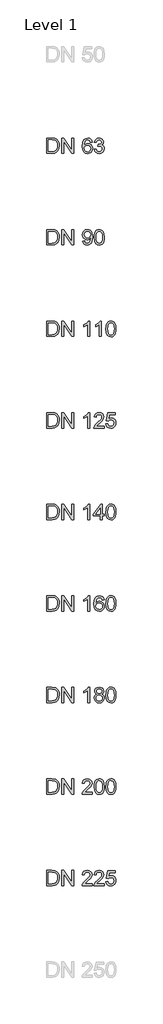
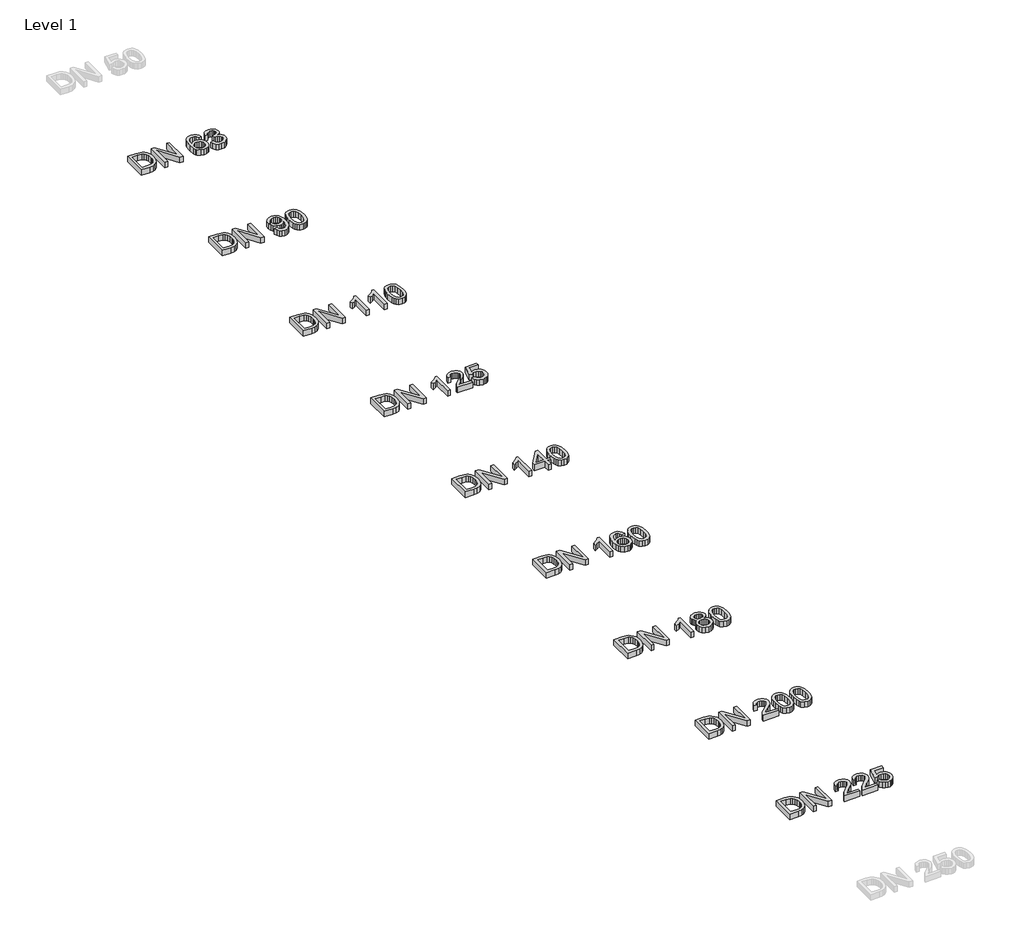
# One storey, part 23 of 26: 9 proxies.
"""IFC4 building model written with IfcOpenShell, lengths in millimetres."""

from ifc_helpers import new_model, si_unit, origin, origin_with_axes, place, context, project, spatial, polyline, outline, extrude, element, save

model = new_model("IFC4")

# Units and contexts
model_context = context("Model", 3, world=origin())
ifc_project = project(units=[si_unit("LENGTHUNIT", "METRE", prefix="MILLI")], contexts=[model_context])

# Site, building, storey
site = spatial("IfcSite", under=ifc_project)
building = spatial("IfcBuilding", under=site)
storey = spatial("IfcBuildingStorey", under=building, Name="Level 1", Elevation=0.0)

# Proxies
placement = place(None, origin())
element("IfcBuildingElementProxy", 1, Name="200mm Arial", ObjectType="200mm Arial", at=placement, inside=storey, context=model_context, shape_type="SweptSolid", body=[
    extrude(outline(polyline([(4539.3076926, -9113.949573), (4539.3076926, -8913.0369527), (4608.6166605, -8913.0369527), (4644.4728923, -8915.9309577), (4660.4880218, -8921.5105013), (4674.0015538, -8930.302881), (4687.8952305, -8945.606772), (4697.7912562, -8964.6385338), (4703.7141563, -8987.0302846), (4705.6884563, -9012.4141423), (4700.3419047, -9052.9547382), (4686.6076435, -9082.2136195), (4668.2625947, -9100.436041), (4644.2521631, -9110.5160077), (4611.9521239, -9113.949573), (4539.3076926, -9113.949573)]), holes=[polyline([(4564.4217702, -9088.8354954), (4608.8619152, -9088.8354954), (4641.1864798, -9085.2057264), (4659.8258342, -9074.9540815), (4668.5507689, -9064.0831685), (4675.1051998, -9050.0116822), (4679.207084, -9032.6783089), (4680.5743788, -9012.0217348), (4677.8949716, -8984.6513144), (4669.85675, -8964.4423301), (4657.9802929, -8950.5609162), (4643.7861793, -8942.1732067), (4608.1752021, -8938.1510302), (4564.4217702, -8938.1510302), (4564.4217702, -9088.8354954)])]), origin_with_axes(), (0.0, 0.0, 1.0), 50.0),
    extrude(outline(polyline([(4740.2203129, -9113.949573), (4740.2203129, -8913.0369527), (4767.100224, -8913.0369527), (4872.06922, -9072.2072292), (4872.06922, -8913.0369527), (4897.1832975, -8913.0369527), (4897.1832975, -9113.949573), (4870.3033864, -9113.949573), (4765.3343905, -8954.7302454), (4765.3343905, -9113.949573), (4740.2203129, -9113.949573)])), origin_with_axes(), (0.0, 0.0, 1.0), 50.0),
    extrude(outline(polyline([(5104.3744372, -9113.949573), (5079.2603597, -9113.949573), (5079.2603597, -8957.3789958), (5055.4706573, -8974.3260931), (5029.0322046, -8987.0057592), (5029.0322046, -8963.2651077), (5065.8449296, -8939.769711), (5079.315542, -8926.1948653), (5088.1876294, -8913.0369527), (5104.3744372, -8913.0369527), (5104.3744372, -9113.949573)])), origin_with_axes(), (0.0, 0.0, 1.0), 50.0),
    extrude(outline(polyline([(5292.7300188, -8966.4043674), (5267.6159412, -8969.5436271), (5258.1000603, -8948.5988789), (5246.7079812, -8940.7629924), (5232.9369318, -8938.1510302), (5210.2754009, -8944.2333458), (5200.8392277, -8953.8411973), (5193.1320999, -8967.066555), (5187.9265697, -8985.7733545), (5185.9951892, -9011.8255311), (5196.0690245, -9000.0717013), (5208.1416853, -8991.7882251), (5221.5387213, -8986.8770005), (5235.5856822, -8985.2399256), (5258.7867733, -8989.7158232), (5278.2599936, -9003.143516), (5291.4669572, -9023.6590686), (5295.8692784, -9049.3985455), (5293.7968765, -9067.3818437), (5287.5796708, -9084.0530295), (5277.7326961, -9098.1919608), (5264.7709871, -9108.5784958), (5249.2831551, -9114.9612484), (5231.8578113, -9117.0888326), (5203.3653508, -9111.4479754), (5180.673163, -9094.5254036), (5172.0141406, -9081.4165418), (5165.8291245, -9064.6533856), (5160.8811117, -9020.1641897), (5166.3748161, -8970.144501), (5173.2419467, -8951.0667539), (5182.8559295, -8935.9437382), (5193.276187, -8925.9220195), (5205.3580449, -8918.763649), (5234.5065616, -8913.0369527), (5256.5426932, -8916.5808825), (5274.1887662, -8927.2126722), (5286.5496012, -8944.0984558), (5292.7300188, -8966.4043674)]), holes=[polyline([(5185.9951892, -9049.0061381), (5191.8077247, -9070.7602267), (5207.2587685, -9086.554627), (5229.895774, -9091.9747551), (5246.4688579, -9089.1665892), (5259.4980119, -9080.7420915), (5267.9409036, -9067.4983397), (5270.7552009, -9050.2324114), (5267.9776918, -9033.6593275), (5259.6451647, -9021.022581), (5246.3952815, -9013.0211476), (5228.8657044, -9010.3540031), (5212.317146, -9013.0211476), (5198.4786516, -9021.022581), (5189.1160548, -9033.3527592), (5185.9951892, -9049.0061381)])]), origin_with_axes(), (0.0, 0.0, 1.0), 50.0),
    extrude(outline(polyline([(5317.8440963, -9015.1119436), (5319.6896376, -8982.9529258), (5325.2262617, -8957.3054194), (5334.3987861, -8937.7770168), (5347.1520286, -8923.9753106), (5363.5779597, -8915.7715422), (5383.7685498, -8913.0369527), (5399.2441191, -8914.6556334), (5413.1010076, -8919.5116758), (5424.6892904, -8927.4150073), (5433.3590428, -8938.1755557), (5445.1312666, -8967.9004209), (5449.6930034, -9015.1119436), (5447.8658561, -9047.0870203), (5442.3844144, -9072.6732131), (5433.2670723, -9092.2200098), (5420.5322239, -9106.0768983), (5404.0695046, -9114.335849), (5383.7685498, -9117.0888326), (5357.6734536, -9112.3063667), (5337.8568768, -9097.9589689), (5329.1012853, -9082.8298218), (5322.8472914, -9063.9789353), (5317.8440963, -9015.1119436)]), holes=[polyline([(5342.9581738, -9015.0628927), (5345.9012298, -9054.5672876), (5354.7303977, -9077.4311536), (5367.8760476, -9088.3388547), (5383.7685498, -9091.9747551), (5399.661052, -9088.326592), (5412.806702, -9077.3821026), (5421.6358699, -9054.5059739), (5424.5789258, -9015.0628927), (5421.7339717, -8976.4475459), (5413.1991094, -8953.4058703), (5400.0779849, -8941.9647402), (5383.4742442, -8938.1510302), (5367.7534203, -8941.5110191), (5355.1228051, -8951.5909857), (5345.9993317, -8976.0674012), (5342.9581738, -9015.0628927)])]), origin_with_axes(), (0.0, 0.0, 1.0), 50.0),
])
element("IfcBuildingElementProxy", 2, Name="200mm Arial", ObjectType="200mm Arial", at=placement, inside=storey, context=model_context, shape_type="SweptSolid", body=[
    extrude(outline(polyline([(4539.3076926, -11513.949573), (4539.3076926, -11313.0369527), (4608.6166605, -11313.0369527), (4644.4728923, -11315.9309577), (4660.4880218, -11321.5105013), (4674.0015538, -11330.302881), (4687.8952305, -11345.606772), (4697.7912562, -11364.6385338), (4703.7141563, -11387.0302846), (4705.6884563, -11412.4141423), (4700.3419047, -11452.9547382), (4686.6076435, -11482.2136195), (4668.2625947, -11500.436041), (4644.2521631, -11510.5160077), (4611.9521239, -11513.949573), (4539.3076926, -11513.949573)]), holes=[polyline([(4564.4217702, -11488.8354954), (4608.8619152, -11488.8354954), (4641.1864798, -11485.2057264), (4659.8258342, -11474.9540815), (4668.5507689, -11464.0831685), (4675.1051998, -11450.0116822), (4679.207084, -11432.6783089), (4680.5743788, -11412.0217348), (4677.8949716, -11384.6513144), (4669.85675, -11364.4423301), (4657.9802929, -11350.5609162), (4643.7861793, -11342.1732067), (4608.1752021, -11338.1510302), (4564.4217702, -11338.1510302), (4564.4217702, -11488.8354954)])]), origin_with_axes(), (0.0, 0.0, 1.0), 50.0),
    extrude(outline(polyline([(4740.2203129, -11513.949573), (4740.2203129, -11313.0369527), (4767.100224, -11313.0369527), (4872.06922, -11472.2072292), (4872.06922, -11313.0369527), (4897.1832975, -11313.0369527), (4897.1832975, -11513.949573), (4870.3033864, -11513.949573), (4765.3343905, -11354.7302454), (4765.3343905, -11513.949573), (4740.2203129, -11513.949573)])), origin_with_axes(), (0.0, 0.0, 1.0), 50.0),
    extrude(outline(polyline([(5138.9062938, -11488.8354954), (5138.9062938, -11513.949573), (5007.0573868, -11513.949573), (5009.7551881, -11496.6345937), (5025.0100281, -11469.9754118), (5056.451676, -11440.8636832), (5099.8127005, -11399.0232377), (5107.9428926, -11384.6022634), (5110.6529566, -11370.5736967), (5108.0961767, -11357.9982638), (5100.4258371, -11347.5442838), (5088.6352192, -11340.4993436), (5073.7176043, -11338.1510302), (5058.0519627, -11340.4441613), (5045.8812, -11347.3235546), (5038.0269194, -11358.2496499), (5035.310724, -11372.6828868), (5010.1966465, -11369.5436271), (5016.2850935, -11345.2511527), (5029.4491375, -11327.5069778), (5049.0020656, -11316.6544589), (5074.2571645, -11313.0369527), (5099.6962045, -11317.0591291), (5119.2123444, -11329.1256586), (5131.6283617, -11347.1518763), (5135.7670341, -11369.0531178), (5131.3033993, -11392.8673456), (5116.4654921, -11417.4909138), (5080.486633, -11451.9001431), (5051.5956336, -11476.0577275), (5040.2648682, -11488.8354954), (5138.9062938, -11488.8354954)])), origin_with_axes(), (0.0, 0.0, 1.0), 50.0),
    extrude(outline(polyline([(5164.0203714, -11415.1119436), (5165.8659127, -11382.9529258), (5171.4025367, -11357.3054194), (5180.5750612, -11337.7770168), (5193.3283037, -11323.9753106), (5209.7542347, -11315.7715422), (5229.9448249, -11313.0369527), (5245.4203942, -11314.6556334), (5259.2772827, -11319.5116758), (5270.8655655, -11327.4150073), (5279.5353179, -11338.1755557), (5291.3075417, -11367.9004209), (5295.8692784, -11415.1119436), (5294.0421312, -11447.0870203), (5288.5606895, -11472.6732131), (5279.4433474, -11492.2200098), (5266.708499, -11506.0768983), (5250.2457797, -11514.335849), (5229.9448249, -11517.0888326), (5203.8497287, -11512.3063667), (5184.0331519, -11497.9589689), (5175.2775604, -11482.8298218), (5169.0235665, -11463.9789353), (5164.0203714, -11415.1119436)]), holes=[polyline([(5189.1344489, -11415.0628927), (5192.0775049, -11454.5672876), (5200.9066728, -11477.4311536), (5214.0523227, -11488.3388547), (5229.9448249, -11491.9747551), (5245.8373271, -11488.326592), (5258.9829771, -11477.3821026), (5267.8121449, -11454.5059739), (5270.7552009, -11415.0628927), (5267.9102468, -11376.4475459), (5259.3753845, -11353.4058703), (5246.25426, -11341.9647402), (5229.6505193, -11338.1510302), (5213.9296954, -11341.5110191), (5201.2990802, -11351.5909857), (5192.1756067, -11376.0674012), (5189.1344489, -11415.0628927)])]), origin_with_axes(), (0.0, 0.0, 1.0), 50.0),
    extrude(outline(polyline([(5317.8440963, -11415.1119436), (5319.6896376, -11382.9529258), (5325.2262617, -11357.3054194), (5334.3987861, -11337.7770168), (5347.1520286, -11323.9753106), (5363.5779597, -11315.7715422), (5383.7685498, -11313.0369527), (5399.2441191, -11314.6556334), (5413.1010076, -11319.5116758), (5424.6892904, -11327.4150073), (5433.3590428, -11338.1755557), (5445.1312666, -11367.9004209), (5449.6930034, -11415.1119436), (5447.8658561, -11447.0870203), (5442.3844144, -11472.6732131), (5433.2670723, -11492.2200098), (5420.5322239, -11506.0768983), (5404.0695046, -11514.335849), (5383.7685498, -11517.0888326), (5357.6734536, -11512.3063667), (5337.8568768, -11497.9589689), (5329.1012853, -11482.8298218), (5322.8472914, -11463.9789353), (5317.8440963, -11415.1119436)]), holes=[polyline([(5342.9581738, -11415.0628927), (5345.9012298, -11454.5672876), (5354.7303977, -11477.4311536), (5367.8760476, -11488.3388547), (5383.7685498, -11491.9747551), (5399.661052, -11488.326592), (5412.806702, -11477.3821026), (5421.6358699, -11454.5059739), (5424.5789258, -11415.0628927), (5421.7339717, -11376.4475459), (5413.1991094, -11353.4058703), (5400.0779849, -11341.9647402), (5383.4742442, -11338.1510302), (5367.7534203, -11341.5110191), (5355.1228051, -11351.5909857), (5345.9993317, -11376.0674012), (5342.9581738, -11415.0628927)])]), origin_with_axes(), (0.0, 0.0, 1.0), 50.0),
])
element("IfcBuildingElementProxy", 3, Name="200mm Arial", ObjectType="200mm Arial", at=placement, inside=storey, context=model_context, shape_type="SweptSolid", body=[
    extrude(outline(polyline([(4539.3076926, -3113.949573), (4539.3076926, -2913.0369527), (4608.6166605, -2913.0369527), (4644.4728923, -2915.9309577), (4660.4880218, -2921.5105013), (4674.0015538, -2930.302881), (4687.8952305, -2945.606772), (4697.7912562, -2964.6385338), (4703.7141563, -2987.0302846), (4705.6884563, -3012.4141423), (4700.3419047, -3052.9547382), (4686.6076435, -3082.2136195), (4668.2625947, -3100.436041), (4644.2521631, -3110.5160077), (4611.9521239, -3113.949573), (4539.3076926, -3113.949573)]), holes=[polyline([(4564.4217702, -3088.8354954), (4608.8619152, -3088.8354954), (4641.1864798, -3085.2057264), (4659.8258342, -3074.9540815), (4668.5507689, -3064.0831685), (4675.1051998, -3050.0116822), (4679.207084, -3032.6783089), (4680.5743788, -3012.0217348), (4677.8949716, -2984.6513144), (4669.85675, -2964.4423301), (4657.9802929, -2950.5609162), (4643.7861793, -2942.1732067), (4608.1752021, -2938.1510302), (4564.4217702, -2938.1510302), (4564.4217702, -3088.8354954)])]), origin_with_axes(), (0.0, 0.0, 1.0), 50.0),
    extrude(outline(polyline([(4740.2203129, -3113.949573), (4740.2203129, -2913.0369527), (4767.100224, -2913.0369527), (4872.06922, -3072.2072292), (4872.06922, -2913.0369527), (4897.1832975, -2913.0369527), (4897.1832975, -3113.949573), (4870.3033864, -3113.949573), (4765.3343905, -2954.7302454), (4765.3343905, -3113.949573), (4740.2203129, -3113.949573)])), origin_with_axes(), (0.0, 0.0, 1.0), 50.0),
    extrude(outline(polyline([(5138.9062938, -2966.4043674), (5113.7922163, -2969.5436271), (5104.2763354, -2948.5988789), (5092.8842562, -2940.7629924), (5079.1132069, -2938.1510302), (5056.451676, -2944.2333458), (5047.0155028, -2953.8411973), (5039.308375, -2967.066555), (5034.1028448, -2985.7733545), (5032.1714643, -3011.8255311), (5042.2452996, -3000.0717013), (5054.3179604, -2991.7882251), (5067.7149964, -2986.8770005), (5081.7619573, -2985.2399256), (5104.9630484, -2989.7158232), (5124.4362687, -3003.143516), (5137.6432323, -3023.6590686), (5142.0455535, -3049.3985455), (5139.9731516, -3067.3818437), (5133.7559459, -3084.0530295), (5123.9089712, -3098.1919608), (5110.9472622, -3108.5784958), (5095.4594302, -3114.9612484), (5078.0340864, -3117.0888326), (5049.5416258, -3111.4479754), (5026.8494381, -3094.5254036), (5018.1904156, -3081.4165418), (5012.0053996, -3064.6533856), (5007.0573868, -3020.1641897), (5012.5510912, -2970.144501), (5019.4182218, -2951.0667539), (5029.0322046, -2935.9437382), (5039.4524621, -2925.9220195), (5051.53432, -2918.763649), (5080.6828367, -2913.0369527), (5102.7189682, -2916.5808825), (5120.3650413, -2927.2126722), (5132.7258763, -2944.0984558), (5138.9062938, -2966.4043674)]), holes=[polyline([(5032.1714643, -3049.0061381), (5037.9839998, -3070.7602267), (5053.4350436, -3086.554627), (5076.0720491, -3091.9747551), (5092.6451329, -3089.1665892), (5105.6742869, -3080.7420915), (5114.1171787, -3067.4983397), (5116.931476, -3050.2324114), (5114.1539669, -3033.6593275), (5105.8214397, -3021.022581), (5092.5715565, -3013.0211476), (5075.0419795, -3010.3540031), (5058.4934211, -3013.0211476), (5044.6549267, -3021.022581), (5035.2923299, -3033.3527592), (5032.1714643, -3049.0061381)])]), origin_with_axes(), (0.0, 0.0, 1.0), 50.0),
    extrude(outline(polyline([(5164.0203714, -3060.5821582), (5189.1344489, -3057.4428985), (5194.7569121, -3073.2250361), (5202.9913374, -3083.8813512), (5214.2423951, -3089.9514041), (5228.9147553, -3091.9747551), (5246.1316327, -3089.1911147), (5259.4244355, -3080.8401934), (5267.9225095, -3068.3812565), (5270.7552009, -3053.2735692), (5267.947035, -3038.9323028), (5259.5225373, -3027.3011004), (5246.7692948, -3019.5939726), (5230.9748945, -3017.02493), (5213.3656097, -3019.7717822), (5216.1615128, -2994.6577047), (5220.1836893, -2994.9520102), (5235.2300629, -2993.1493885), (5248.6822812, -2987.7415231), (5258.1736367, -2978.5935242), (5261.3374218, -2965.5705016), (5259.0442907, -2954.7241141), (5252.1648974, -2945.925603), (5241.6679978, -2940.0946734), (5228.5223479, -2938.1510302), (5215.3521724, -2940.1130675), (5204.5854927, -2945.9991794), (5196.7250807, -2955.809366), (5192.2737086, -2969.5436271), (5167.1596311, -2966.4043674), (5174.5540592, -2943.8532011), (5187.7119719, -2927.0164685), (5205.7136642, -2916.5318316), (5227.6394311, -2913.0369527), (5243.4277, -2914.7598667), (5257.928382, -2919.9286087), (5270.154327, -2928.0833263), (5279.1183849, -2938.7641669), (5284.6182208, -2951.0698196), (5286.4514994, -2964.0989736), (5284.7101913, -2976.2390794), (5279.4862669, -2987.2510138), (5270.8533028, -2996.6320047), (5258.8848752, -3003.87928), (5274.6056991, -3010.2313758), (5286.2552956, -3021.0471064), (5293.4657827, -3035.7378608), (5295.8692784, -3053.7150276), (5291.062287, -3078.191443), (5276.6413128, -3098.645682), (5254.8749614, -3112.478045), (5228.0318385, -3117.0888326), (5203.7516269, -3113.1524953), (5183.984101, -3101.3434833), (5170.2375771, -3083.2804773), (5164.0203714, -3060.5821582)])), origin_with_axes(), (0.0, 0.0, 1.0), 50.0),
])
element("IfcBuildingElementProxy", 4, Name="200mm Arial", ObjectType="200mm Arial", at=placement, inside=storey, context=model_context, shape_type="SweptSolid", body=[
    extrude(outline(polyline([(4539.3076926, -4313.949573), (4539.3076926, -4113.0369527), (4608.6166605, -4113.0369527), (4644.4728923, -4115.9309577), (4660.4880218, -4121.5105013), (4674.0015538, -4130.302881), (4687.8952305, -4145.606772), (4697.7912562, -4164.6385338), (4703.7141563, -4187.0302846), (4705.6884563, -4212.4141423), (4700.3419047, -4252.9547382), (4686.6076435, -4282.2136195), (4668.2625947, -4300.436041), (4644.2521631, -4310.5160077), (4611.9521239, -4313.949573), (4539.3076926, -4313.949573)]), holes=[polyline([(4564.4217702, -4288.8354954), (4608.8619152, -4288.8354954), (4641.1864798, -4285.2057264), (4659.8258342, -4274.9540815), (4668.5507689, -4264.0831685), (4675.1051998, -4250.0116822), (4679.207084, -4232.6783089), (4680.5743788, -4212.0217348), (4677.8949716, -4184.6513144), (4669.85675, -4164.4423301), (4657.9802929, -4150.5609162), (4643.7861793, -4142.1732067), (4608.1752021, -4138.1510302), (4564.4217702, -4138.1510302), (4564.4217702, -4288.8354954)])]), origin_with_axes(), (0.0, 0.0, 1.0), 50.0),
    extrude(outline(polyline([(4740.2203129, -4313.949573), (4740.2203129, -4113.0369527), (4767.100224, -4113.0369527), (4872.06922, -4272.2072292), (4872.06922, -4113.0369527), (4897.1832975, -4113.0369527), (4897.1832975, -4313.949573), (4870.3033864, -4313.949573), (4765.3343905, -4154.7302454), (4765.3343905, -4313.949573), (4740.2203129, -4313.949573)])), origin_with_axes(), (0.0, 0.0, 1.0), 50.0),
    extrude(outline(polyline([(5013.3359061, -4263.7214179), (5038.4499837, -4260.5821582), (5042.7419403, -4274.8375855), (5049.7316982, -4284.5435388), (5059.2475791, -4290.116951), (5071.1179049, -4291.9747551), (5091.4495165, -4287.1922892), (5105.2328285, -4274.4145212), (5113.4488598, -4252.5868562), (5117.0786288, -4223.4506021), (5116.931476, -4218.5455089), (5108.2310668, -4229.1650358), (5096.8451191, -4237.5772708), (5083.5952359, -4243.0587125), (5069.3030203, -4244.8858597), (5046.4023661, -4240.4222249), (5027.3399474, -4227.0313202), (5014.4824717, -4206.3440894), (5010.1966465, -4179.9914758), (5014.6909382, -4152.7682081), (5028.1738133, -4131.4310524), (5048.4257171, -4117.6354776), (5073.227095, -4113.0369527), (5091.9584199, -4115.6611776), (5109.0097504, -4123.5338523), (5123.271309, -4136.2625693), (5133.6333186, -4153.4549212), (5139.9424948, -4177.2200981), (5142.0455535, -4209.6672901), (5139.9486262, -4244.070388), (5133.657844, -4270.6621249), (5123.2283895, -4290.6442486), (5108.7154448, -4305.2185069), (5090.7444093, -4314.1212512), (5069.9406825, -4317.0888326), (5048.4686367, -4313.5878223), (5031.3375984, -4303.0847914), (5019.3569081, -4286.2419274), (5013.3359061, -4263.7214179)]), holes=[polyline([(5116.931476, -4179.4028646), (5114.221412, -4162.3821909), (5106.0912199, -4149.2855919), (5093.4728674, -4140.9346706), (5077.2983224, -4138.1510302), (5060.5229034, -4141.1492685), (5047.0829478, -4150.1439832), (5038.25378, -4163.9089012), (5035.310724, -4181.2177491), (5038.0943644, -4196.7362379), (5046.4452857, -4209.0541534), (5059.5541475, -4217.092375), (5076.6116093, -4219.7717822), (5092.6573957, -4217.092375), (5105.5761851, -4209.0541534), (5114.0926533, -4196.2825168), (5116.931476, -4179.4028646)])]), origin_with_axes(), (0.0, 0.0, 1.0), 50.0),
    extrude(outline(polyline([(5164.0203714, -4215.1119436), (5165.8659127, -4182.9529258), (5171.4025367, -4157.3054194), (5180.5750612, -4137.7770168), (5193.3283037, -4123.9753106), (5209.7542347, -4115.7715422), (5229.9448249, -4113.0369527), (5245.4203942, -4114.6556334), (5259.2772827, -4119.5116758), (5270.8655655, -4127.4150073), (5279.5353179, -4138.1755557), (5291.3075417, -4167.9004209), (5295.8692784, -4215.1119436), (5294.0421312, -4247.0870203), (5288.5606895, -4272.6732131), (5279.4433474, -4292.2200098), (5266.708499, -4306.0768983), (5250.2457797, -4314.335849), (5229.9448249, -4317.0888326), (5203.8497287, -4312.3063667), (5184.0331519, -4297.9589689), (5175.2775604, -4282.8298218), (5169.0235665, -4263.9789353), (5164.0203714, -4215.1119436)]), holes=[polyline([(5189.1344489, -4215.0628927), (5192.0775049, -4254.5672876), (5200.9066728, -4277.4311536), (5214.0523227, -4288.3388547), (5229.9448249, -4291.9747551), (5245.8373271, -4288.326592), (5258.9829771, -4277.3821026), (5267.8121449, -4254.5059739), (5270.7552009, -4215.0628927), (5267.9102468, -4176.4475459), (5259.3753845, -4153.4058703), (5246.25426, -4141.9647402), (5229.6505193, -4138.1510302), (5213.9296954, -4141.5110191), (5201.2990802, -4151.5909857), (5192.1756067, -4176.0674012), (5189.1344489, -4215.0628927)])]), origin_with_axes(), (0.0, 0.0, 1.0), 50.0),
])
element("IfcBuildingElementProxy", 5, Name="200mm Arial", ObjectType="200mm Arial", at=placement, inside=storey, context=model_context, shape_type="SweptSolid", body=[
    extrude(outline(polyline([(4539.3076926, -5513.949573), (4539.3076926, -5313.0369527), (4608.6166605, -5313.0369527), (4644.4728923, -5315.9309577), (4660.4880218, -5321.5105013), (4674.0015538, -5330.302881), (4687.8952305, -5345.606772), (4697.7912562, -5364.6385338), (4703.7141563, -5387.0302846), (4705.6884563, -5412.4141423), (4700.3419047, -5452.9547382), (4686.6076435, -5482.2136195), (4668.2625947, -5500.436041), (4644.2521631, -5510.5160077), (4611.9521239, -5513.949573), (4539.3076926, -5513.949573)]), holes=[polyline([(4564.4217702, -5488.8354954), (4608.8619152, -5488.8354954), (4641.1864798, -5485.2057264), (4659.8258342, -5474.9540815), (4668.5507689, -5464.0831685), (4675.1051998, -5450.0116822), (4679.207084, -5432.6783089), (4680.5743788, -5412.0217348), (4677.8949716, -5384.6513144), (4669.85675, -5364.4423301), (4657.9802929, -5350.5609162), (4643.7861793, -5342.1732067), (4608.1752021, -5338.1510302), (4564.4217702, -5338.1510302), (4564.4217702, -5488.8354954)])]), origin_with_axes(), (0.0, 0.0, 1.0), 50.0),
    extrude(outline(polyline([(4740.2203129, -5513.949573), (4740.2203129, -5313.0369527), (4767.100224, -5313.0369527), (4872.06922, -5472.2072292), (4872.06922, -5313.0369527), (4897.1832975, -5313.0369527), (4897.1832975, -5513.949573), (4870.3033864, -5513.949573), (4765.3343905, -5354.7302454), (4765.3343905, -5513.949573), (4740.2203129, -5513.949573)])), origin_with_axes(), (0.0, 0.0, 1.0), 50.0),
    extrude(outline(polyline([(5104.3744372, -5513.949573), (5079.2603597, -5513.949573), (5079.2603597, -5357.3789958), (5055.4706573, -5374.3260931), (5029.0322046, -5387.0057592), (5029.0322046, -5363.2651077), (5065.8449296, -5339.769711), (5079.315542, -5326.1948653), (5088.1876294, -5313.0369527), (5104.3744372, -5313.0369527), (5104.3744372, -5513.949573)])), origin_with_axes(), (0.0, 0.0, 1.0), 50.0),
    extrude(outline(polyline([(5258.1981621, -5513.949573), (5233.0840846, -5513.949573), (5233.0840846, -5357.3789958), (5209.2943822, -5374.3260931), (5182.8559295, -5387.0057592), (5182.8559295, -5363.2651077), (5219.6686545, -5339.769711), (5233.1392669, -5326.1948653), (5242.0113543, -5313.0369527), (5258.1981621, -5313.0369527), (5258.1981621, -5513.949573)])), origin_with_axes(), (0.0, 0.0, 1.0), 50.0),
    extrude(outline(polyline([(5317.8440963, -5415.1119436), (5319.6896376, -5382.9529258), (5325.2262617, -5357.3054194), (5334.3987861, -5337.7770168), (5347.1520286, -5323.9753106), (5363.5779597, -5315.7715422), (5383.7685498, -5313.0369527), (5399.2441191, -5314.6556334), (5413.1010076, -5319.5116758), (5424.6892904, -5327.4150073), (5433.3590428, -5338.1755557), (5445.1312666, -5367.9004209), (5449.6930034, -5415.1119436), (5447.8658561, -5447.0870203), (5442.3844144, -5472.6732131), (5433.2670723, -5492.2200098), (5420.5322239, -5506.0768983), (5404.0695046, -5514.335849), (5383.7685498, -5517.0888326), (5357.6734536, -5512.3063667), (5337.8568768, -5497.9589689), (5329.1012853, -5482.8298218), (5322.8472914, -5463.9789353), (5317.8440963, -5415.1119436)]), holes=[polyline([(5342.9581738, -5415.0628927), (5345.9012298, -5454.5672876), (5354.7303977, -5477.4311536), (5367.8760476, -5488.3388547), (5383.7685498, -5491.9747551), (5399.661052, -5488.326592), (5412.806702, -5477.3821026), (5421.6358699, -5454.5059739), (5424.5789258, -5415.0628927), (5421.7339717, -5376.4475459), (5413.1991094, -5353.4058703), (5400.0779849, -5341.9647402), (5383.4742442, -5338.1510302), (5367.7534203, -5341.5110191), (5355.1228051, -5351.5909857), (5345.9993317, -5376.0674012), (5342.9581738, -5415.0628927)])]), origin_with_axes(), (0.0, 0.0, 1.0), 50.0),
])
element("IfcBuildingElementProxy", 6, Name="200mm Arial", ObjectType="200mm Arial", at=placement, inside=storey, context=model_context, shape_type="SweptSolid", body=[
    extrude(outline(polyline([(4539.3076926, -6713.949573), (4539.3076926, -6513.0369527), (4608.6166605, -6513.0369527), (4644.4728923, -6515.9309577), (4660.4880218, -6521.5105013), (4674.0015538, -6530.302881), (4687.8952305, -6545.606772), (4697.7912562, -6564.6385338), (4703.7141563, -6587.0302846), (4705.6884563, -6612.4141423), (4700.3419047, -6652.9547382), (4686.6076435, -6682.2136195), (4668.2625947, -6700.436041), (4644.2521631, -6710.5160077), (4611.9521239, -6713.949573), (4539.3076926, -6713.949573)]), holes=[polyline([(4564.4217702, -6688.8354954), (4608.8619152, -6688.8354954), (4641.1864798, -6685.2057264), (4659.8258342, -6674.9540815), (4668.5507689, -6664.0831685), (4675.1051998, -6650.0116822), (4679.207084, -6632.6783089), (4680.5743788, -6612.0217348), (4677.8949716, -6584.6513144), (4669.85675, -6564.4423301), (4657.9802929, -6550.5609162), (4643.7861793, -6542.1732067), (4608.1752021, -6538.1510302), (4564.4217702, -6538.1510302), (4564.4217702, -6688.8354954)])]), origin_with_axes(), (0.0, 0.0, 1.0), 50.0),
    extrude(outline(polyline([(4740.2203129, -6713.949573), (4740.2203129, -6513.0369527), (4767.100224, -6513.0369527), (4872.06922, -6672.2072292), (4872.06922, -6513.0369527), (4897.1832975, -6513.0369527), (4897.1832975, -6713.949573), (4870.3033864, -6713.949573), (4765.3343905, -6554.7302454), (4765.3343905, -6713.949573), (4740.2203129, -6713.949573)])), origin_with_axes(), (0.0, 0.0, 1.0), 50.0),
    extrude(outline(polyline([(5104.3744372, -6713.949573), (5079.2603597, -6713.949573), (5079.2603597, -6557.3789958), (5055.4706573, -6574.3260931), (5029.0322046, -6587.0057592), (5029.0322046, -6563.2651077), (5065.8449296, -6539.769711), (5079.315542, -6526.1948653), (5088.1876294, -6513.0369527), (5104.3744372, -6513.0369527), (5104.3744372, -6713.949573)])), origin_with_axes(), (0.0, 0.0, 1.0), 50.0),
    extrude(outline(polyline([(5292.7300188, -6688.8354954), (5292.7300188, -6713.949573), (5160.8811117, -6713.949573), (5163.578913, -6696.6345937), (5178.833753, -6669.9754118), (5210.2754009, -6640.8636832), (5253.6364254, -6599.0232377), (5261.7666175, -6584.6022634), (5264.4766815, -6570.5736967), (5261.9199017, -6557.9982638), (5254.2495621, -6547.5442838), (5242.4589441, -6540.4993436), (5227.5413292, -6538.1510302), (5211.8756876, -6540.4441613), (5199.7049249, -6547.3235546), (5191.8506443, -6558.2496499), (5189.1344489, -6572.6828868), (5164.0203714, -6569.5436271), (5170.1088184, -6545.2511527), (5183.2728625, -6527.5069778), (5202.8257905, -6516.6544589), (5228.0808895, -6513.0369527), (5253.5199294, -6517.0591291), (5273.0360693, -6529.1256586), (5285.4520866, -6547.1518763), (5289.5907591, -6569.0531178), (5285.1271242, -6592.8673456), (5270.289217, -6617.4909138), (5234.3103579, -6651.9001431), (5205.4193586, -6676.0577275), (5194.0885931, -6688.8354954), (5292.7300188, -6688.8354954)])), origin_with_axes(), (0.0, 0.0, 1.0), 50.0),
    extrude(outline(polyline([(5317.8440963, -6660.5821582), (5342.9581738, -6657.4428985), (5347.5689615, -6672.5199289), (5355.6133145, -6683.3172655), (5367.0544445, -6689.8103827), (5381.8555634, -6691.9747551), (5399.8572557, -6688.9642541), (5413.3462622, -6679.9327511), (5421.7707599, -6665.9225785), (5424.5789258, -6647.9760685), (5421.9485696, -6631.0780222), (5414.0575008, -6618.1531014), (5400.8444058, -6609.9493329), (5382.2479709, -6607.2147434), (5360.1995767, -6611.5802764), (5346.0974335, -6622.9110419), (5320.983356, -6619.7717822), (5342.9581738, -6516.1762123), (5440.2752243, -6516.1762123), (5440.2752243, -6541.2902899), (5363.26526, -6541.2902899), (5352.5231057, -6596.619742), (5370.4634843, -6585.7304349), (5389.2622543, -6582.1006659), (5412.7269942, -6586.601089), (5432.2063459, -6600.1023582), (5445.321339, -6620.6792244), (5449.6930034, -6646.4064386), (5445.756666, -6671.5205162), (5433.947654, -6693.0048247), (5423.512068, -6703.5415782), (5411.335174, -6711.0678307), (5397.4169718, -6715.5835821), (5381.7574616, -6717.0888326), (5357.0909738, -6713.2199403), (5337.4399439, -6701.6132634), (5323.9693315, -6683.6177025), (5317.8440963, -6660.5821582)])), origin_with_axes(), (0.0, 0.0, 1.0), 50.0),
])
element("IfcBuildingElementProxy", 7, Name="200mm Arial", ObjectType="200mm Arial", at=placement, inside=storey, context=model_context, shape_type="SweptSolid", body=[
    extrude(outline(polyline([(4539.3076926, -7913.949573), (4539.3076926, -7713.0369527), (4608.6166605, -7713.0369527), (4644.4728923, -7715.9309577), (4660.4880218, -7721.5105013), (4674.0015538, -7730.302881), (4687.8952305, -7745.606772), (4697.7912562, -7764.6385338), (4703.7141563, -7787.0302846), (4705.6884563, -7812.4141423), (4700.3419047, -7852.9547382), (4686.6076435, -7882.2136195), (4668.2625947, -7900.436041), (4644.2521631, -7910.5160077), (4611.9521239, -7913.949573), (4539.3076926, -7913.949573)]), holes=[polyline([(4564.4217702, -7888.8354954), (4608.8619152, -7888.8354954), (4641.1864798, -7885.2057264), (4659.8258342, -7874.9540815), (4668.5507689, -7864.0831685), (4675.1051998, -7850.0116822), (4679.207084, -7832.6783089), (4680.5743788, -7812.0217348), (4677.8949716, -7784.6513144), (4669.85675, -7764.4423301), (4657.9802929, -7750.5609162), (4643.7861793, -7742.1732067), (4608.1752021, -7738.1510302), (4564.4217702, -7738.1510302), (4564.4217702, -7888.8354954)])]), origin_with_axes(), (0.0, 0.0, 1.0), 50.0),
    extrude(outline(polyline([(4740.2203129, -7913.949573), (4740.2203129, -7713.0369527), (4767.100224, -7713.0369527), (4872.06922, -7872.2072292), (4872.06922, -7713.0369527), (4897.1832975, -7713.0369527), (4897.1832975, -7913.949573), (4870.3033864, -7913.949573), (4765.3343905, -7754.7302454), (4765.3343905, -7913.949573), (4740.2203129, -7913.949573)])), origin_with_axes(), (0.0, 0.0, 1.0), 50.0),
    extrude(outline(polyline([(5104.3744372, -7913.949573), (5079.2603597, -7913.949573), (5079.2603597, -7757.3789958), (5055.4706573, -7774.3260931), (5029.0322046, -7787.0057592), (5029.0322046, -7763.2651077), (5065.8449296, -7739.769711), (5079.315542, -7726.1948653), (5088.1876294, -7713.0369527), (5104.3744372, -7713.0369527), (5104.3744372, -7913.949573)])), origin_with_axes(), (0.0, 0.0, 1.0), 50.0),
    extrude(outline(polyline([(5245.6411234, -7913.949573), (5245.6411234, -7866.8606776), (5154.6025923, -7866.8606776), (5154.6025923, -7841.7466), (5251.9196428, -7716.1762123), (5270.7552009, -7716.1762123), (5270.7552009, -7841.7466), (5295.8692784, -7841.7466), (5295.8692784, -7866.8606776), (5270.7552009, -7866.8606776), (5270.7552009, -7913.949573), (5245.6411234, -7913.949573)]), holes=[polyline([(5245.6411234, -7841.7466), (5245.6411234, -7764.1480245), (5185.5046799, -7841.7466), (5245.6411234, -7841.7466)])]), origin_with_axes(), (0.0, 0.0, 1.0), 50.0),
    extrude(outline(polyline([(5317.8440963, -7815.1119436), (5319.6896376, -7782.9529258), (5325.2262617, -7757.3054194), (5334.3987861, -7737.7770168), (5347.1520286, -7723.9753106), (5363.5779597, -7715.7715422), (5383.7685498, -7713.0369527), (5399.2441191, -7714.6556334), (5413.1010076, -7719.5116758), (5424.6892904, -7727.4150073), (5433.3590428, -7738.1755557), (5445.1312666, -7767.9004209), (5449.6930034, -7815.1119436), (5447.8658561, -7847.0870203), (5442.3844144, -7872.6732131), (5433.2670723, -7892.2200098), (5420.5322239, -7906.0768983), (5404.0695046, -7914.335849), (5383.7685498, -7917.0888326), (5357.6734536, -7912.3063667), (5337.8568768, -7897.9589689), (5329.1012853, -7882.8298218), (5322.8472914, -7863.9789353), (5317.8440963, -7815.1119436)]), holes=[polyline([(5342.9581738, -7815.0628927), (5345.9012298, -7854.5672876), (5354.7303977, -7877.4311536), (5367.8760476, -7888.3388547), (5383.7685498, -7891.9747551), (5399.661052, -7888.326592), (5412.806702, -7877.3821026), (5421.6358699, -7854.5059739), (5424.5789258, -7815.0628927), (5421.7339717, -7776.4475459), (5413.1991094, -7753.4058703), (5400.0779849, -7741.9647402), (5383.4742442, -7738.1510302), (5367.7534203, -7741.5110191), (5355.1228051, -7751.5909857), (5345.9993317, -7776.0674012), (5342.9581738, -7815.0628927)])]), origin_with_axes(), (0.0, 0.0, 1.0), 50.0),
])
element("IfcBuildingElementProxy", 8, Name="200mm Arial", ObjectType="200mm Arial", at=placement, inside=storey, context=model_context, shape_type="SweptSolid", body=[
    extrude(outline(polyline([(4539.3076926, -10313.949573), (4539.3076926, -10113.0369527), (4608.6166605, -10113.0369527), (4644.4728923, -10115.9309577), (4660.4880218, -10121.5105013), (4674.0015538, -10130.302881), (4687.8952305, -10145.606772), (4697.7912562, -10164.6385338), (4703.7141563, -10187.0302846), (4705.6884563, -10212.4141423), (4700.3419047, -10252.9547382), (4686.6076435, -10282.2136195), (4668.2625947, -10300.436041), (4644.2521631, -10310.5160077), (4611.9521239, -10313.949573), (4539.3076926, -10313.949573)]), holes=[polyline([(4564.4217702, -10288.8354954), (4608.8619152, -10288.8354954), (4641.1864798, -10285.2057264), (4659.8258342, -10274.9540815), (4668.5507689, -10264.0831685), (4675.1051998, -10250.0116822), (4679.207084, -10232.6783089), (4680.5743788, -10212.0217348), (4677.8949716, -10184.6513144), (4669.85675, -10164.4423301), (4657.9802929, -10150.5609162), (4643.7861793, -10142.1732067), (4608.1752021, -10138.1510302), (4564.4217702, -10138.1510302), (4564.4217702, -10288.8354954)])]), origin_with_axes(), (0.0, 0.0, 1.0), 50.0),
    extrude(outline(polyline([(4740.2203129, -10313.949573), (4740.2203129, -10113.0369527), (4767.100224, -10113.0369527), (4872.06922, -10272.2072292), (4872.06922, -10113.0369527), (4897.1832975, -10113.0369527), (4897.1832975, -10313.949573), (4870.3033864, -10313.949573), (4765.3343905, -10154.7302454), (4765.3343905, -10313.949573), (4740.2203129, -10313.949573)])), origin_with_axes(), (0.0, 0.0, 1.0), 50.0),
    extrude(outline(polyline([(5104.3744372, -10313.949573), (5079.2603597, -10313.949573), (5079.2603597, -10157.3789958), (5055.4706573, -10174.3260931), (5029.0322046, -10187.0057592), (5029.0322046, -10163.2651077), (5065.8449296, -10139.769711), (5079.315542, -10126.1948653), (5088.1876294, -10113.0369527), (5104.3744372, -10113.0369527), (5104.3744372, -10313.949573)])), origin_with_axes(), (0.0, 0.0, 1.0), 50.0),
    extrude(outline(polyline([(5200.6123672, -10203.2906688), (5187.1662802, -10196.6687929), (5177.7301071, -10187.6924722), (5172.1566948, -10176.5456478), (5170.2988908, -10163.4122605), (5174.3455927, -10143.7796247), (5186.4856985, -10127.5560287), (5205.3580449, -10116.6667217), (5229.6014684, -10113.0369527), (5253.9920447, -10116.7525608), (5273.1096457, -10127.8993853), (5285.4704807, -10144.3804986), (5289.5907591, -10164.0989736), (5287.7574804, -10176.8092965), (5282.2576446, -10187.7660486), (5273.0299379, -10196.687187), (5260.0130466, -10203.2906688), (5275.4702218, -10211.255314), (5286.7212795, -10222.9846183), (5293.5822787, -10237.9144959), (5295.8692784, -10255.4808612), (5291.3320672, -10279.4912927), (5277.7204333, -10299.332395), (5256.7021087, -10312.6497232), (5229.9448249, -10317.0888326), (5203.1875411, -10312.6313291), (5182.1692165, -10299.2588186), (5168.5575826, -10279.227644), (5164.0203714, -10254.7941481), (5166.3993416, -10236.5472012), (5173.5362523, -10221.5376158), (5185.0632215, -10210.2804267), (5200.6123672, -10203.2906688)]), holes=[polyline([(5195.4129683, -10164.1480245), (5197.6386544, -10175.110908), (5204.3157126, -10183.8664995), (5215.2479392, -10189.6054586), (5230.2391305, -10191.518445), (5244.8808339, -10189.6177213), (5255.6475136, -10183.9155504), (5262.2693896, -10175.4542645), (5264.4766815, -10165.276196), (5262.1958132, -10154.7118513), (5255.353208, -10145.974654), (5244.4393755, -10140.1069361), (5229.9448249, -10138.1510302), (5215.3583038, -10140.0640166), (5204.4628654, -10145.8029757), (5197.6754426, -10154.2152106), (5195.4129683, -10164.1480245)]), polyline([(5189.1344489, -10253.9112313), (5193.3283037, -10272.8203659), (5199.1347078, -10280.9321639), (5208.1662108, -10286.97156), (5230.1410286, -10291.9747551), (5247.2352787, -10289.3443988), (5260.0620976, -10281.45333), (5268.0819251, -10269.5032966), (5270.7552009, -10254.6960463), (5267.9960859, -10239.6374099), (5259.7187411, -10227.4237277), (5246.5976166, -10219.3303238), (5229.3071628, -10216.6325225), (5212.452036, -10219.2935356), (5199.7539758, -10227.2765749), (5191.7893306, -10239.2572652), (5189.1344489, -10253.9112313)])]), origin_with_axes(), (0.0, 0.0, 1.0), 50.0),
    extrude(outline(polyline([(5317.8440963, -10215.1119436), (5319.6896376, -10182.9529258), (5325.2262617, -10157.3054194), (5334.3987861, -10137.7770168), (5347.1520286, -10123.9753106), (5363.5779597, -10115.7715422), (5383.7685498, -10113.0369527), (5399.2441191, -10114.6556334), (5413.1010076, -10119.5116758), (5424.6892904, -10127.4150073), (5433.3590428, -10138.1755557), (5445.1312666, -10167.9004209), (5449.6930034, -10215.1119436), (5447.8658561, -10247.0870203), (5442.3844144, -10272.6732131), (5433.2670723, -10292.2200098), (5420.5322239, -10306.0768983), (5404.0695046, -10314.335849), (5383.7685498, -10317.0888326), (5357.6734536, -10312.3063667), (5337.8568768, -10297.9589689), (5329.1012853, -10282.8298218), (5322.8472914, -10263.9789353), (5317.8440963, -10215.1119436)]), holes=[polyline([(5342.9581738, -10215.0628927), (5345.9012298, -10254.5672876), (5354.7303977, -10277.4311536), (5367.8760476, -10288.3388547), (5383.7685498, -10291.9747551), (5399.661052, -10288.326592), (5412.806702, -10277.3821026), (5421.6358699, -10254.5059739), (5424.5789258, -10215.0628927), (5421.7339717, -10176.4475459), (5413.1991094, -10153.4058703), (5400.0779849, -10141.9647402), (5383.4742442, -10138.1510302), (5367.7534203, -10141.5110191), (5355.1228051, -10151.5909857), (5345.9993317, -10176.0674012), (5342.9581738, -10215.0628927)])]), origin_with_axes(), (0.0, 0.0, 1.0), 50.0),
])
element("IfcBuildingElementProxy", 9, Name="200mm Arial", ObjectType="200mm Arial", at=placement, inside=storey, context=model_context, shape_type="SweptSolid", body=[
    extrude(outline(polyline([(4539.3076926, -12713.949573), (4539.3076926, -12513.0369527), (4608.6166605, -12513.0369527), (4644.4728923, -12515.9309577), (4660.4880218, -12521.5105013), (4674.0015538, -12530.302881), (4687.8952305, -12545.606772), (4697.7912562, -12564.6385338), (4703.7141563, -12587.0302846), (4705.6884563, -12612.4141423), (4700.3419047, -12652.9547382), (4686.6076435, -12682.2136195), (4668.2625947, -12700.436041), (4644.2521631, -12710.5160077), (4611.9521239, -12713.949573), (4539.3076926, -12713.949573)]), holes=[polyline([(4564.4217702, -12688.8354954), (4608.8619152, -12688.8354954), (4641.1864798, -12685.2057264), (4659.8258342, -12674.9540815), (4668.5507689, -12664.0831685), (4675.1051998, -12650.0116822), (4679.207084, -12632.6783089), (4680.5743788, -12612.0217348), (4677.8949716, -12584.6513144), (4669.85675, -12564.4423301), (4657.9802929, -12550.5609162), (4643.7861793, -12542.1732067), (4608.1752021, -12538.1510302), (4564.4217702, -12538.1510302), (4564.4217702, -12688.8354954)])]), origin_with_axes(), (0.0, 0.0, 1.0), 50.0),
    extrude(outline(polyline([(4740.2203129, -12713.949573), (4740.2203129, -12513.0369527), (4767.100224, -12513.0369527), (4872.06922, -12672.2072292), (4872.06922, -12513.0369527), (4897.1832975, -12513.0369527), (4897.1832975, -12713.949573), (4870.3033864, -12713.949573), (4765.3343905, -12554.7302454), (4765.3343905, -12713.949573), (4740.2203129, -12713.949573)])), origin_with_axes(), (0.0, 0.0, 1.0), 50.0),
    extrude(outline(polyline([(5138.9062938, -12688.8354954), (5138.9062938, -12713.949573), (5007.0573868, -12713.949573), (5009.7551881, -12696.6345937), (5025.0100281, -12669.9754118), (5056.451676, -12640.8636832), (5099.8127005, -12599.0232377), (5107.9428926, -12584.6022634), (5110.6529566, -12570.5736967), (5108.0961767, -12557.9982638), (5100.4258371, -12547.5442838), (5088.6352192, -12540.4993436), (5073.7176043, -12538.1510302), (5058.0519627, -12540.4441613), (5045.8812, -12547.3235546), (5038.0269194, -12558.2496499), (5035.310724, -12572.6828868), (5010.1966465, -12569.5436271), (5016.2850935, -12545.2511527), (5029.4491375, -12527.5069778), (5049.0020656, -12516.6544589), (5074.2571645, -12513.0369527), (5099.6962045, -12517.0591291), (5119.2123444, -12529.1256586), (5131.6283617, -12547.1518763), (5135.7670341, -12569.0531178), (5131.3033993, -12592.8673456), (5116.4654921, -12617.4909138), (5080.486633, -12651.9001431), (5051.5956336, -12676.0577275), (5040.2648682, -12688.8354954), (5138.9062938, -12688.8354954)])), origin_with_axes(), (0.0, 0.0, 1.0), 50.0),
    extrude(outline(polyline([(5292.7300188, -12688.8354954), (5292.7300188, -12713.949573), (5160.8811117, -12713.949573), (5163.578913, -12696.6345937), (5178.833753, -12669.9754118), (5210.2754009, -12640.8636832), (5253.6364254, -12599.0232377), (5261.7666175, -12584.6022634), (5264.4766815, -12570.5736967), (5261.9199017, -12557.9982638), (5254.2495621, -12547.5442838), (5242.4589441, -12540.4993436), (5227.5413292, -12538.1510302), (5211.8756876, -12540.4441613), (5199.7049249, -12547.3235546), (5191.8506443, -12558.2496499), (5189.1344489, -12572.6828868), (5164.0203714, -12569.5436271), (5170.1088184, -12545.2511527), (5183.2728625, -12527.5069778), (5202.8257905, -12516.6544589), (5228.0808895, -12513.0369527), (5253.5199294, -12517.0591291), (5273.0360693, -12529.1256586), (5285.4520866, -12547.1518763), (5289.5907591, -12569.0531178), (5285.1271242, -12592.8673456), (5270.289217, -12617.4909138), (5234.3103579, -12651.9001431), (5205.4193586, -12676.0577275), (5194.0885931, -12688.8354954), (5292.7300188, -12688.8354954)])), origin_with_axes(), (0.0, 0.0, 1.0), 50.0),
    extrude(outline(polyline([(5317.8440963, -12660.5821582), (5342.9581738, -12657.4428985), (5347.5689615, -12672.5199289), (5355.6133145, -12683.3172655), (5367.0544445, -12689.8103827), (5381.8555634, -12691.9747551), (5399.8572557, -12688.9642541), (5413.3462622, -12679.9327511), (5421.7707599, -12665.9225785), (5424.5789258, -12647.9760685), (5421.9485696, -12631.0780222), (5414.0575008, -12618.1531014), (5400.8444058, -12609.9493329), (5382.2479709, -12607.2147434), (5360.1995767, -12611.5802764), (5346.0974335, -12622.9110419), (5320.983356, -12619.7717822), (5342.9581738, -12516.1762123), (5440.2752243, -12516.1762123), (5440.2752243, -12541.2902899), (5363.26526, -12541.2902899), (5352.5231057, -12596.619742), (5370.4634843, -12585.7304349), (5389.2622543, -12582.1006659), (5412.7269942, -12586.601089), (5432.2063459, -12600.1023582), (5445.321339, -12620.6792244), (5449.6930034, -12646.4064386), (5445.756666, -12671.5205162), (5433.947654, -12693.0048247), (5423.512068, -12703.5415782), (5411.335174, -12711.0678307), (5397.4169718, -12715.5835821), (5381.7574616, -12717.0888326), (5357.0909738, -12713.2199403), (5337.4399439, -12701.6132634), (5323.9693315, -12683.6177025), (5317.8440963, -12660.5821582)])), origin_with_axes(), (0.0, 0.0, 1.0), 50.0),
])

save(model, "model.ifc")
